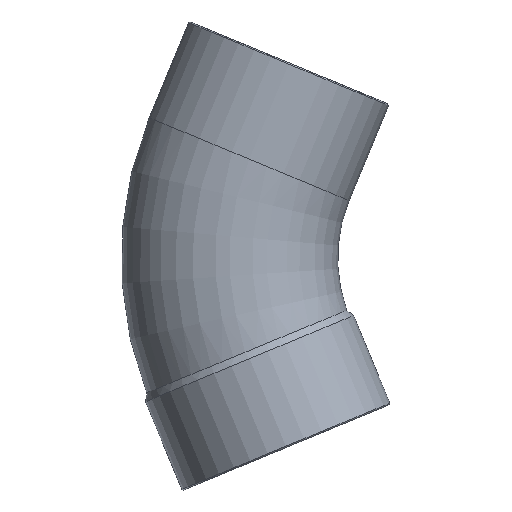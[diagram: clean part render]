
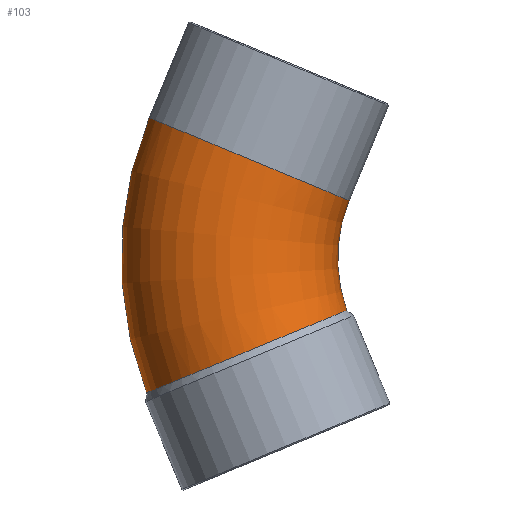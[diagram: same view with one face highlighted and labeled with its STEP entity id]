
A CAD part, front view. The second image highlights one B-rep face of the part: STEP entity #103.
In plain terms, the highlighted toroidal (fillet/blend) face has major radius 106.68 mm and minor radius 44.45 mm.
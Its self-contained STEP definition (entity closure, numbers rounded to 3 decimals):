
#44=CARTESIAN_POINT('',(4.435,0.,0.));
#45=DIRECTION('',(0.,1.0,0.));
#46=DIRECTION('',(-0.383,0.,0.924));
#47=AXIS2_PLACEMENT_3D('',#44,#45,#46);
#48=TOROIDAL_SURFACE('',#47,106.68,44.45);
#49=CARTESIAN_POINT('',(-136.251,0.,-55.206));
#50=VERTEX_POINT('',#49);
#51=CARTESIAN_POINT('',(-135.191,0.,57.835));
#52=VERTEX_POINT('',#51);
#53=CARTESIAN_POINT('',(4.435,0.,0.));
#54=DIRECTION('',(0.0,1.0,0.0));
#55=DIRECTION('',(0.0,0.0,1.0));
#56=AXIS2_PLACEMENT_3D('',#53,#54,#55);
#57=CIRCLE('',#56,151.13);
#58=EDGE_CURVE('',#50,#52,#57,.T.);
#59=ORIENTED_EDGE('',*,*,#58,.F.);
#60=CARTESIAN_POINT('',(-54.033,0.,-21.309));
#61=VERTEX_POINT('',#60);
#62=CARTESIAN_POINT('',(-136.251,0.,-55.206));
#63=CARTESIAN_POINT('',(-136.251,-3.277,-55.206));
#64=CARTESIAN_POINT('',(-135.916,-6.543,-55.068));
#65=CARTESIAN_POINT('',(-134.589,-12.938,-54.519));
#66=CARTESIAN_POINT('',(-133.6,-16.046,-54.111));
#67=CARTESIAN_POINT('',(-130.017,-24.24,-52.63));
#68=CARTESIAN_POINT('',(-126.807,-28.938,-51.303));
#69=CARTESIAN_POINT('',(-118.9,-36.741,-48.037));
#70=CARTESIAN_POINT('',(-114.28,-39.769,-46.128));
#71=CARTESIAN_POINT('',(-104.224,-43.74,-41.976));
#72=CARTESIAN_POINT('',(-98.885,-44.644,-39.772));
#73=CARTESIAN_POINT('',(-88.184,-44.187,-35.358));
#74=CARTESIAN_POINT('',(-82.926,-42.83,-33.19));
#75=CARTESIAN_POINT('',(-73.185,-38.012,-29.178));
#76=CARTESIAN_POINT('',(-68.797,-34.599,-27.373));
#77=CARTESIAN_POINT('',(-61.478,-26.148,-24.364));
#78=CARTESIAN_POINT('',(-58.617,-21.192,-23.189));
#79=CARTESIAN_POINT('',(-54.941,-10.739,-21.681));
#80=CARTESIAN_POINT('',(-54.033,-5.39,-21.309));
#81=CARTESIAN_POINT('',(-54.033,0.,-21.309));
#82=B_SPLINE_CURVE_WITH_KNOTS('',3,(#62,#63,#64,#65,#66,#67,#68,#69,#70,#71,#72,#73,#74,#75,#76,#77,#78,#79,#80,#81),.UNSPECIFIED.,.F.,.U.,(4,2,2,2,2,2,2,2,2,4),(-28.017,-27.034,-26.051,-24.315,-22.578,-20.84,-19.103,-17.365,-15.629,-14.01),.UNSPECIFIED.);
#83=EDGE_CURVE('',#50,#61,#82,.T.);
#84=ORIENTED_EDGE('',*,*,#83,.T.);
#85=CARTESIAN_POINT('',(-53.058,0.,23.814));
#86=VERTEX_POINT('',#85);
#87=CARTESIAN_POINT('',(4.435,0.,0.));
#88=DIRECTION('',(0.0,-1.0,0.0));
#89=DIRECTION('',(0.0,0.0,1.0));
#90=AXIS2_PLACEMENT_3D('',#87,#88,#89);
#91=CIRCLE('',#90,62.23);
#92=EDGE_CURVE('',#86,#61,#91,.T.);
#93=ORIENTED_EDGE('',*,*,#92,.F.);
#94=CARTESIAN_POINT('',(-94.124,0.,40.825));
#95=DIRECTION('',(-0.383,0.,-0.924));
#96=DIRECTION('',(-0.924,0.,0.383));
#97=AXIS2_PLACEMENT_3D('',#94,#95,#96);
#98=CIRCLE('',#97,44.45);
#99=EDGE_CURVE('',#86,#52,#98,.T.);
#100=ORIENTED_EDGE('',*,*,#99,.T.);
#101=EDGE_LOOP('',(#59,#84,#93,#100));
#102=FACE_OUTER_BOUND('',#101,.T.);
#103=ADVANCED_FACE('',(#102),#48,.T.);
